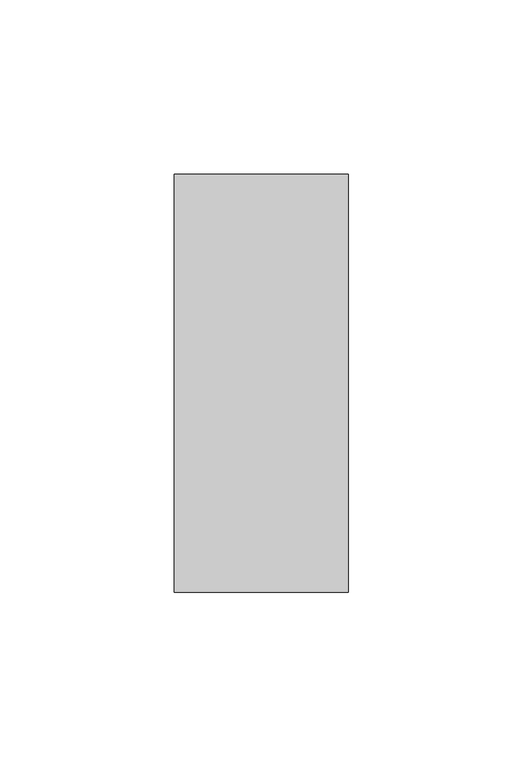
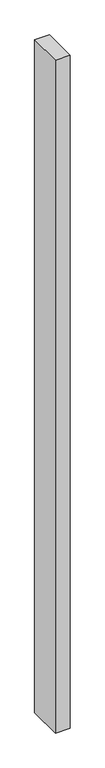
"""IFC4 building model written with IfcOpenShell, lengths in millimetres: member geometry, Прямоугольный импост : 50х120 мм."""

from ifc_helpers import new_model, si_unit, frame, origin, place, context, project, spatial, polyline, outline, extrude, source, transform, mapped, element, save


def member_367de799(model_context):
    return source(origin(), model_context, "Body", "SweptSolid", [
        extrude(outline(polyline([(0.0, 60.0), (0.0, -60.0), (-50.0, -60.0), (-50.0, 60.0), (0.0, 60.0)])), frame((0.0, 0.0, -2390.0), z_axis=(0.0, 0.0, 1.0), x_axis=(1.0, 0.0, 0.0)), (0.0, 0.0, 1.0), 2390.0),
    ])


if __name__ == "__main__":
    model = new_model("IFC4")
    model_context = context("Model", 3, world=origin())
    ifc_project = project(units=[si_unit("LENGTHUNIT", "METRE", prefix="MILLI")], contexts=[model_context])
    site = spatial("IfcSite", under=ifc_project)
    building = spatial("IfcBuilding", under=site)
    placement = place(None, origin())
    member_shape = member_367de799(model_context)
    element("IfcMember", 1, ObjectType="Прямоугольный импост : 50х120 мм", at=placement, inside=building, context=model_context, shape_type="MappedRepresentation", body=[
        mapped(member_shape, transform((0.0, 0.0, 0.0), x_axis=(1.0, 0.0, 0.0), y_axis=(0.0, 1.0, 0.0), z_axis=(0.0, 0.0, 1.0))),
    ])
    save(model, "model.ifc")
